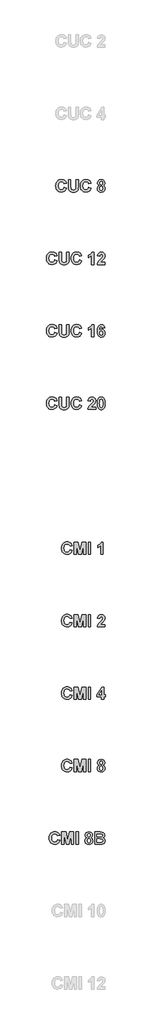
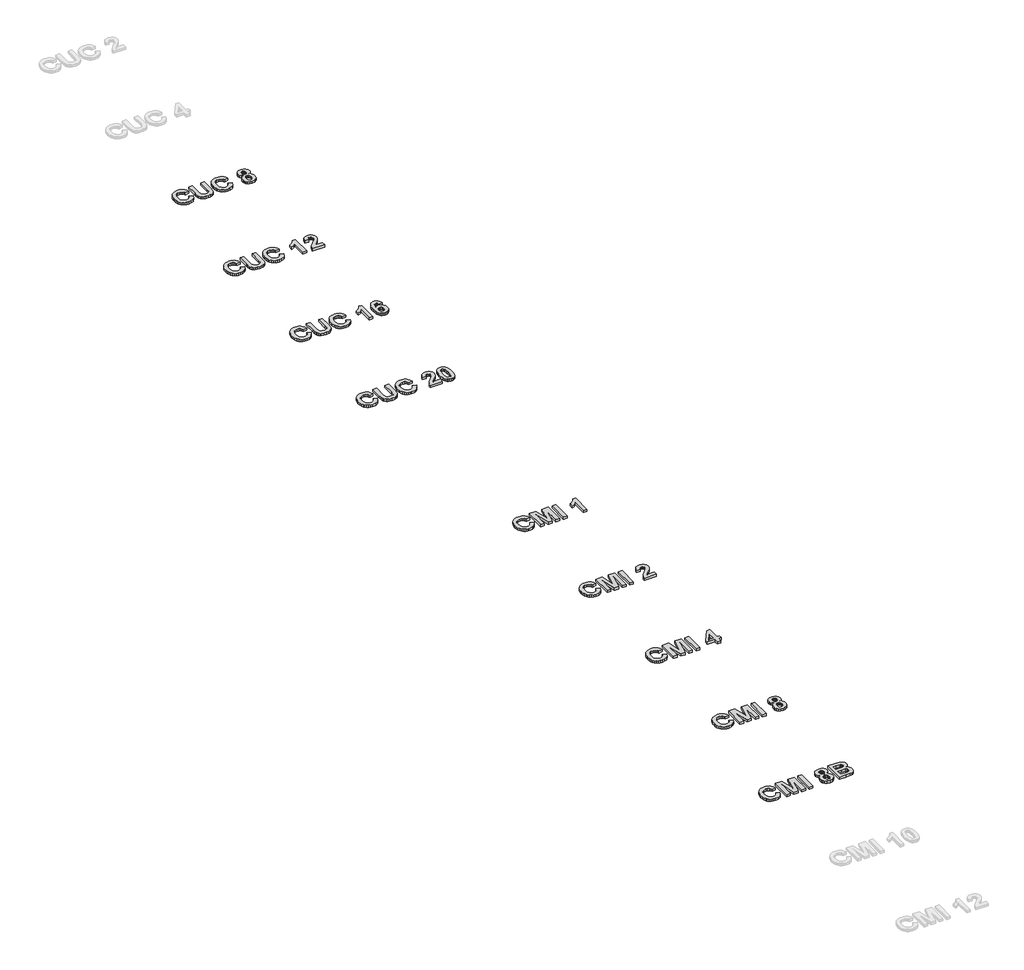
# One storey, part 2 of 9: 9 proxies.
"""IFC4 building model written with IfcOpenShell, lengths in millimetres."""

from ifc_helpers import new_model, si_unit, origin, origin_with_axes, place, context, project, spatial, polyline, outline, extrude, element, save

model = new_model("IFC4")

# Units and contexts
model_context = context("Model", 3, world=origin())
ifc_project = project(units=[si_unit("LENGTHUNIT", "METRE", prefix="MILLI")], contexts=[model_context])

# Site, building, storey
site = spatial("IfcSite", under=ifc_project)
building = spatial("IfcBuilding", under=site)
storey = spatial("IfcBuildingStorey", under=building, Name="Этаж 01", Elevation=0.0)

# Proxies
placement = place(None, origin())
element("IfcBuildingElementProxy", 1, Name="Wellmix_Надпись1", ObjectType="Wellmix_Надпись1", at=placement, inside=storey, context=model_context, shape_type="SweptSolid", body=[
    extrude(outline(polyline([(24002.2057513, -66009.0718122), (24050.7895322, -66025.2664059), (24035.4647654, -66061.0479177), (24024.9438148, -66074.9829386), (24012.5171527, -66086.2808027), (23982.1522896, -66101.2497313), (23944.5757715, -66106.2393741), (23920.2482972, -66104.1082985), (23898.1902801, -66097.7150714), (23878.4017203, -66087.059693), (23860.8826176, -66072.1421633), (23846.5462903, -66053.5278696), (23836.3060566, -66031.7821994), (23830.1619163, -66006.9051527), (23828.1138695, -65978.8967295), (23830.1797082, -65949.3621557), (23836.3772242, -65923.3227041), (23846.7064175, -65900.7783747), (23861.1672882, -65881.7291676), (23878.9967609, -65866.5902274), (23899.4317602, -65855.7766987), (23922.4722862, -65849.2885815), (23948.1183389, -65847.1258757), (23970.5440555, -65848.9090207), (23990.7556675, -65854.2584556), (24008.7531749, -65863.1741803), (24024.5365777, -65875.656195), (24039.8613445, -65896.1682926), (24050.7895322, -65924.0501956), (24002.2057513, -65932.1474924), (23994.7647783, -65915.34402), (23982.0573994, -65902.5101208), (23965.0641466, -65894.3732864), (23944.7655519, -65891.6610083), (23917.3185624, -65896.587391), (23895.5807997, -65911.3665392), (23887.3194219, -65922.7434785), (23881.4184378, -65937.1687653), (23876.6976505, -65975.1643818), (23881.2761025, -66015.2396751), (23886.9991675, -66030.2244187), (23895.0114585, -66041.8405603), (23916.0849898, -66056.7383213), (23942.6779676, -66061.7042416), (23962.7551518, -66058.5333275), (23979.8432948, -66049.0205853), (23993.2307201, -66032.6915638), (24002.2057513, -66009.0718122)])), origin_with_axes(), (0.0, 0.0, 1.0), 30.0),
    extrude(outline(polyline([(24091.2760164, -65851.1745242), (24139.8597973, -65851.1745242), (24139.8597973, -65988.7653101), (24141.9473816, -66031.2761184), (24148.0361693, -66045.31196), (24159.0908773, -66056.2955004), (24175.1115056, -66063.3885426), (24196.0980542, -66065.75289), (24217.0608802, -66063.5229704), (24232.124699, -66056.8332115), (24241.8272217, -66046.8934633), (24246.7061593, -66034.9135759), (24249.1733044, -65991.7385362), (24249.1733044, -65851.1745242), (24297.7570854, -65851.1745242), (24297.7570854, -65984.9697022), (24293.5186566, -66049.8113369), (24287.4931291, -66067.2632257), (24277.8934041, -66081.7893333), (24264.585054, -66093.5161802), (24247.4336508, -66102.5702865), (24225.4428476, -66108.3585885), (24197.6162973, -66110.2880226), (24165.0215146, -66108.1846232), (24141.3780405, -66101.8744251), (24124.2187298, -66092.195625), (24111.0764375, -66079.9864196), (24101.8404583, -66066.1798959), (24096.400087, -66051.7091408), (24092.557034, -66024.6021745), (24091.2760164, -65987.0572865), (24091.2760164, -65851.1745242)])), origin_with_axes(), (0.0, 0.0, 1.0), 30.0),
    extrude(outline(polyline([(24512.3354513, -66009.0718122), (24560.9192322, -66025.2664059), (24545.5944654, -66061.0479177), (24535.0735148, -66074.9829386), (24522.6468527, -66086.2808027), (24492.2819896, -66101.2497313), (24454.7054715, -66106.2393741), (24430.3779972, -66104.1082985), (24408.3199801, -66097.7150714), (24388.5314203, -66087.059693), (24371.0123176, -66072.1421633), (24356.6759903, -66053.5278696), (24346.4357565, -66031.7821994), (24340.2916163, -66006.9051527), (24338.2435695, -65978.8967295), (24340.3094082, -65949.3621557), (24346.5069242, -65923.3227041), (24356.8361175, -65900.7783747), (24371.2969882, -65881.7291676), (24389.1264609, -65866.5902274), (24409.5614602, -65855.7766987), (24432.6019862, -65849.2885815), (24458.2480389, -65847.1258757), (24480.6737555, -65848.9090207), (24500.8853675, -65854.2584556), (24518.8828749, -65863.1741803), (24534.6662777, -65875.656195), (24549.9910445, -65896.1682926), (24560.9192322, -65924.0501956), (24512.3354513, -65932.1474924), (24504.8944783, -65915.34402), (24492.1870994, -65902.5101208), (24475.1938466, -65894.3732864), (24454.8952519, -65891.6610083), (24427.4482624, -65896.587391), (24405.7104997, -65911.3665392), (24397.4491219, -65922.7434785), (24391.5481378, -65937.1687653), (24386.8273505, -65975.1643818), (24391.4058025, -66015.2396751), (24397.1288675, -66030.2244187), (24405.1411585, -66041.8405603), (24426.2146898, -66056.7383213), (24452.8076676, -66061.7042416), (24472.8848518, -66058.5333275), (24489.9729948, -66049.0205853), (24503.3604201, -66032.6915638), (24512.3354513, -66009.0718122)])), origin_with_axes(), (0.0, 0.0, 1.0), 30.0),
    extrude(outline(polyline([(24733.11331, -65969.4077098), (24715.6376987, -65959.9345051), (24703.6973489, -65947.4564442), (24696.8178096, -65932.7959088), (24694.5246298, -65916.7752805), (24699.5300877, -65890.783274), (24714.5464614, -65869.7413727), (24738.7829993, -65855.8162363), (24771.4489497, -65851.1745242), (24803.9172121, -65855.8162363), (24828.1932876, -65869.7413727), (24843.328274, -65890.783274), (24848.3732695, -65916.7752805), (24845.8191417, -65933.5154927), (24838.1567583, -65948.310456), (24825.8605702, -65960.4959388), (24809.4050285, -65969.4077098), (24827.9481546, -65979.8140015), (24841.4462851, -65994.0791611), (24849.6780097, -66011.5231423), (24852.4219179, -66031.4658988), (24846.9815466, -66063.2224848), (24840.1810825, -66076.6336326), (24830.6604327, -66088.4000171), (24818.882187, -66097.9760195), (24805.308935, -66104.8160212), (24772.7774124, -66110.2880226), (24742.0013585, -66105.7649232), (24716.8554562, -66092.195625), (24705.314436, -66080.5122694), (24697.0708501, -66066.8441273), (24692.1246986, -66051.1911985), (24690.4759814, -66033.5534831), (24693.0459242, -66013.8874898), (24700.7557528, -65995.8820748), (24713.9850278, -65980.6759207), (24733.11331, -65969.4077098)]), holes=[polyline([(24743.1084108, -65919.7485066), (24745.0299373, -65933.4364176), (24750.7945167, -65943.7557265), (24759.7537329, -65950.2319825), (24771.2591693, -65952.3907345), (24782.9306635, -65950.2082599), (24792.0084924, -65943.6608363), (24797.8442395, -65933.2703597), (24799.7894885, -65919.5587262), (24797.8679621, -65906.5113241), (24792.1033826, -65896.342258), (24783.1757965, -65889.7948344), (24771.7652503, -65887.6123599), (24759.9988659, -65889.8106494), (24750.8894069, -65896.4055181), (24745.0536598, -65906.6378444), (24743.1084108, -65919.7485066)]), polyline([(24739.0597624, -66029.4415746), (24741.4162023, -66048.0795908), (24748.4855219, -66062.1154325), (24759.081594, -66070.9164982), (24772.0182908, -66073.8501868), (24784.6149645, -66071.0272035), (24794.8235682, -66062.5582534), (24801.5844948, -66048.7754522), (24803.838137, -66030.0109158), (24801.5449572, -66013.2390734), (24794.6654179, -66000.1205036), (24784.2591263, -65991.6515535), (24771.3856895, -65988.8285702), (24757.1442524, -65992.0311143), (24747.062169, -66001.6387468), (24741.060364, -66014.9945421), (24739.0597624, -66029.4415746)])]), origin_with_axes(), (0.0, 0.0, 1.0), 30.0),
])
element("IfcBuildingElementProxy", 2, Name="Wellmix_Надпись1", ObjectType="Wellmix_Надпись1", at=placement, inside=storey, context=model_context, shape_type="SweptSolid", body=[
    extrude(outline(polyline([(23807.8706275, -67509.0718122), (23856.4544084, -67525.2664059), (23841.1296416, -67561.0479177), (23830.608691, -67574.9829386), (23818.1820289, -67586.2808027), (23787.8171658, -67601.2497313), (23750.2406477, -67606.2393741), (23725.9131734, -67604.1082985), (23703.8551563, -67597.7150714), (23684.0665965, -67587.059693), (23666.5474938, -67572.1421633), (23652.2111665, -67553.5278696), (23641.9709328, -67531.7821994), (23635.8267925, -67506.9051527), (23633.7787457, -67478.8967295), (23635.8445844, -67449.3621557), (23642.0421004, -67423.3227041), (23652.3712937, -67400.7783747), (23666.8321644, -67381.7291676), (23684.6616371, -67366.5902274), (23705.0966364, -67355.7766987), (23728.1371624, -67349.2885815), (23753.7832151, -67347.1258757), (23776.2089317, -67348.9090207), (23796.4205437, -67354.2584556), (23814.4180511, -67363.1741803), (23830.2014539, -67375.656195), (23845.5262207, -67396.1682926), (23856.4544084, -67424.0501956), (23807.8706275, -67432.1474924), (23800.4296545, -67415.34402), (23787.7222756, -67402.5101208), (23770.7290228, -67394.3732864), (23750.4304281, -67391.6610083), (23722.9834386, -67396.587391), (23701.2456759, -67411.3665392), (23692.9842981, -67422.7434785), (23687.083314, -67437.1687653), (23682.3625267, -67475.1643818), (23686.9409787, -67515.2396751), (23692.6640437, -67530.2244187), (23700.6763347, -67541.8405603), (23721.749866, -67556.7383213), (23748.3428438, -67561.7042416), (23768.420028, -67558.5333275), (23785.508171, -67549.0205853), (23798.8955963, -67532.6915638), (23807.8706275, -67509.0718122)])), origin_with_axes(), (0.0, 0.0, 1.0), 30.0),
    extrude(outline(polyline([(23896.9408926, -67351.1745242), (23945.5246735, -67351.1745242), (23945.5246735, -67488.7653101), (23947.6122578, -67531.2761184), (23953.7010455, -67545.31196), (23964.7557535, -67556.2955004), (23980.7763817, -67563.3885426), (24001.7629304, -67565.75289), (24022.7257564, -67563.5229704), (24037.7895752, -67556.8332115), (24047.4920979, -67546.8934633), (24052.3710355, -67534.9135759), (24054.8381806, -67491.7385362), (24054.8381806, -67351.1745242), (24103.4219616, -67351.1745242), (24103.4219616, -67484.9697022), (24099.1835328, -67549.8113369), (24093.1580053, -67567.2632257), (24083.5582803, -67581.7893333), (24070.2499302, -67593.5161802), (24053.098527, -67602.5702865), (24031.1077238, -67608.3585885), (24003.2811735, -67610.2880226), (23970.6863908, -67608.1846232), (23947.0429167, -67601.8744251), (23929.883606, -67592.195625), (23916.7413137, -67579.9864196), (23907.5053345, -67566.1798959), (23902.0649632, -67551.7091408), (23898.2219102, -67524.6021745), (23896.9408926, -67487.0572865), (23896.9408926, -67351.1745242)])), origin_with_axes(), (0.0, 0.0, 1.0), 30.0),
    extrude(outline(polyline([(24318.0003275, -67509.0718122), (24366.5841084, -67525.2664059), (24351.2593416, -67561.0479177), (24340.7383909, -67574.9829386), (24328.3117289, -67586.2808027), (24297.9468658, -67601.2497313), (24260.3703477, -67606.2393741), (24236.0428734, -67604.1082985), (24213.9848563, -67597.7150714), (24194.1962965, -67587.059693), (24176.6771938, -67572.1421633), (24162.3408665, -67553.5278696), (24152.1006327, -67531.7821994), (24145.9564925, -67506.9051527), (24143.9084457, -67478.8967295), (24145.9742844, -67449.3621557), (24152.1718004, -67423.3227041), (24162.5009937, -67400.7783747), (24176.9618644, -67381.7291676), (24194.7913371, -67366.5902274), (24215.2263364, -67355.7766987), (24238.2668624, -67349.2885815), (24263.9129151, -67347.1258757), (24286.3386317, -67348.9090207), (24306.5502437, -67354.2584556), (24324.5477511, -67363.1741803), (24340.3311539, -67375.656195), (24355.6559207, -67396.1682926), (24366.5841084, -67424.0501956), (24318.0003275, -67432.1474924), (24310.5593545, -67415.34402), (24297.8519756, -67402.5101208), (24280.8587228, -67394.3732864), (24260.5601281, -67391.6610083), (24233.1131386, -67396.587391), (24211.3753759, -67411.3665392), (24203.1139981, -67422.7434785), (24197.213014, -67437.1687653), (24192.4922267, -67475.1643818), (24197.0706787, -67515.2396751), (24202.7937437, -67530.2244187), (24210.8060347, -67541.8405603), (24231.879566, -67556.7383213), (24258.4725438, -67561.7042416), (24278.549728, -67558.5333275), (24295.637871, -67549.0205853), (24309.0252963, -67532.6915638), (24318.0003275, -67509.0718122)])), origin_with_axes(), (0.0, 0.0, 1.0), 30.0),
    extrude(outline(polyline([(24617.60031, -67606.2393741), (24569.016529, -67606.2393741), (24569.016529, -67423.9236753), (24540.9606607, -67447.8043749), (24508.2868028, -67464.5366797), (24508.2868028, -67415.9528988), (24527.7551083, -67406.8671624), (24548.8365471, -67392.1354593), (24567.2926904, -67373.1178823), (24578.8851095, -67351.1745242), (24617.60031, -67351.1745242), (24617.60031, -67606.2393741)])), origin_with_axes(), (0.0, 0.0, 1.0), 30.0),
    extrude(outline(polyline([(24852.4219179, -67557.6555932), (24852.4219179, -67606.2393741), (24690.4759814, -67606.2393741), (24695.6474972, -67581.7339807), (24705.9747136, -67558.5728651), (24725.1583485, -67532.3910782), (24756.8991194, -67498.823671), (24794.4756375, -67458.0841463), (24801.4975121, -67443.3761657), (24803.838137, -67428.8579656), (24801.8691654, -67414.7114187), (24795.9622506, -67404.2814045), (24786.5918436, -67397.8525936), (24774.2323954, -67395.7096567), (24761.9599299, -67397.8209636), (24752.4709102, -67404.1548842), (24746.0816369, -67415.3756501), (24743.1084108, -67432.1474924), (24694.5246298, -67427.7192832), (24703.1280077, -67392.5703727), (24710.7508535, -67379.3312133), (24720.587804, -67368.9822512), (24745.2118101, -67355.6264559), (24775.3078177, -67351.1745242), (24807.4439644, -67356.164167), (24831.8623752, -67371.1330956), (24847.2820322, -67393.5192746), (24852.4219179, -67420.7606687), (24846.7917662, -67452.8968155), (24828.9524091, -67484.8431819), (24798.7456964, -67516.7262881), (24771.0061287, -67544.3709656), (24761.8966698, -67557.6555932), (24852.4219179, -67557.6555932)])), origin_with_axes(), (0.0, 0.0, 1.0), 30.0),
])
element("IfcBuildingElementProxy", 3, Name="Wellmix_Надпись1", ObjectType="Wellmix_Надпись1", at=placement, inside=storey, context=model_context, shape_type="SweptSolid", body=[
    extrude(outline(polyline([(23807.8706275, -69009.0718122), (23856.4544084, -69025.2664059), (23841.1296416, -69061.0479177), (23830.608691, -69074.9829386), (23818.1820289, -69086.2808027), (23787.8171658, -69101.2497313), (23750.2406477, -69106.2393741), (23725.9131734, -69104.1082985), (23703.8551563, -69097.7150714), (23684.0665965, -69087.059693), (23666.5474938, -69072.1421633), (23652.2111665, -69053.5278696), (23641.9709328, -69031.7821994), (23635.8267925, -69006.9051527), (23633.7787457, -68978.8967295), (23635.8445844, -68949.3621557), (23642.0421004, -68923.3227041), (23652.3712937, -68900.7783747), (23666.8321644, -68881.7291676), (23684.6616371, -68866.5902274), (23705.0966364, -68855.7766987), (23728.1371624, -68849.2885815), (23753.7832151, -68847.1258757), (23776.2089317, -68848.9090207), (23796.4205437, -68854.2584556), (23814.4180511, -68863.1741803), (23830.2014539, -68875.656195), (23845.5262207, -68896.1682926), (23856.4544084, -68924.0501956), (23807.8706275, -68932.1474924), (23800.4296545, -68915.34402), (23787.7222756, -68902.5101208), (23770.7290228, -68894.3732864), (23750.4304281, -68891.6610083), (23722.9834386, -68896.587391), (23701.2456759, -68911.3665392), (23692.9842981, -68922.7434785), (23687.083314, -68937.1687653), (23682.3625267, -68975.1643818), (23686.9409787, -69015.2396751), (23692.6640437, -69030.2244187), (23700.6763347, -69041.8405603), (23721.749866, -69056.7383213), (23748.3428438, -69061.7042416), (23768.420028, -69058.5333275), (23785.508171, -69049.0205853), (23798.8955963, -69032.6915638), (23807.8706275, -69009.0718122)])), origin_with_axes(), (0.0, 0.0, 1.0), 30.0),
    extrude(outline(polyline([(23896.9408926, -68851.1745242), (23945.5246735, -68851.1745242), (23945.5246735, -68988.7653101), (23947.6122578, -69031.2761184), (23953.7010455, -69045.31196), (23964.7557535, -69056.2955004), (23980.7763817, -69063.3885426), (24001.7629304, -69065.75289), (24022.7257564, -69063.5229704), (24037.7895752, -69056.8332115), (24047.4920979, -69046.8934633), (24052.3710355, -69034.9135759), (24054.8381806, -68991.7385362), (24054.8381806, -68851.1745242), (24103.4219616, -68851.1745242), (24103.4219616, -68984.9697022), (24099.1835328, -69049.8113369), (24093.1580053, -69067.2632257), (24083.5582803, -69081.7893333), (24070.2499302, -69093.5161802), (24053.098527, -69102.5702865), (24031.1077238, -69108.3585885), (24003.2811735, -69110.2880226), (23970.6863908, -69108.1846232), (23947.0429167, -69101.8744251), (23929.883606, -69092.195625), (23916.7413137, -69079.9864196), (23907.5053345, -69066.1798959), (23902.0649632, -69051.7091408), (23898.2219102, -69024.6021745), (23896.9408926, -68987.0572865), (23896.9408926, -68851.1745242)])), origin_with_axes(), (0.0, 0.0, 1.0), 30.0),
    extrude(outline(polyline([(24318.0003275, -69009.0718122), (24366.5841084, -69025.2664059), (24351.2593416, -69061.0479177), (24340.7383909, -69074.9829386), (24328.3117289, -69086.2808027), (24297.9468658, -69101.2497313), (24260.3703477, -69106.2393741), (24236.0428734, -69104.1082985), (24213.9848563, -69097.7150714), (24194.1962965, -69087.059693), (24176.6771938, -69072.1421633), (24162.3408665, -69053.5278696), (24152.1006327, -69031.7821994), (24145.9564925, -69006.9051527), (24143.9084457, -68978.8967295), (24145.9742844, -68949.3621557), (24152.1718004, -68923.3227041), (24162.5009937, -68900.7783747), (24176.9618644, -68881.7291676), (24194.7913371, -68866.5902274), (24215.2263364, -68855.7766987), (24238.2668624, -68849.2885815), (24263.9129151, -68847.1258757), (24286.3386317, -68848.9090207), (24306.5502437, -68854.2584556), (24324.5477511, -68863.1741803), (24340.3311539, -68875.656195), (24355.6559207, -68896.1682926), (24366.5841084, -68924.0501956), (24318.0003275, -68932.1474924), (24310.5593545, -68915.34402), (24297.8519756, -68902.5101208), (24280.8587228, -68894.3732864), (24260.5601281, -68891.6610083), (24233.1131386, -68896.587391), (24211.3753759, -68911.3665392), (24203.1139981, -68922.7434785), (24197.213014, -68937.1687653), (24192.4922267, -68975.1643818), (24197.0706787, -69015.2396751), (24202.7937437, -69030.2244187), (24210.8060347, -69041.8405603), (24231.879566, -69056.7383213), (24258.4725438, -69061.7042416), (24278.549728, -69058.5333275), (24295.637871, -69049.0205853), (24309.0252963, -69032.6915638), (24318.0003275, -69009.0718122)])), origin_with_axes(), (0.0, 0.0, 1.0), 30.0),
    extrude(outline(polyline([(24617.60031, -69106.2393741), (24569.016529, -69106.2393741), (24569.016529, -68923.9236753), (24540.9606607, -68947.8043749), (24508.2868028, -68964.5366797), (24508.2868028, -68915.9528988), (24527.7551083, -68906.8671624), (24548.8365471, -68892.1354593), (24567.2926904, -68873.1178823), (24578.8851095, -68851.1745242), (24617.60031, -68851.1745242), (24617.60031, -69106.2393741)])), origin_with_axes(), (0.0, 0.0, 1.0), 30.0),
    extrude(outline(polyline([(24848.3732695, -68918.8628648), (24799.7894885, -68924.0501956), (24796.8162624, -68911.4535219), (24791.1861107, -68902.6366411), (24783.183704, -68897.4414028), (24773.0937131, -68895.7096567), (24759.4927848, -68899.0703512), (24748.1692213, -68909.1524346), (24739.866329, -68929.9887404), (24735.3274146, -68965.6121019), (24755.3492462, -68949.6231037), (24779.7360269, -68944.2934376), (24807.5625772, -68949.9868495), (24831.0716235, -68967.067085), (24847.0843443, -68993.1460742), (24852.4219179, -69025.8357471), (24846.9657316, -69060.2729811), (24840.1454986, -69074.6626842), (24830.5971726, -69087.1664445), (24818.9059095, -69097.2821349), (24805.6568657, -69104.507628), (24774.485436, -69110.2880226), (24756.954472, -69108.4218487), (24741.0524565, -69102.823327), (24726.7793893, -69093.4924577), (24714.1352706, -69080.4292405), (24703.7843316, -69063.1157333), (24696.3908037, -69041.0339937), (24691.954687, -69014.1840216), (24690.4759814, -68982.5658172), (24692.019924, -68950.1133697), (24696.6517517, -68922.5319524), (24704.3714647, -68899.8215652), (24715.1790627, -68881.9822082), (24728.4538059, -68868.5038464), (24743.5749542, -68858.8764452), (24760.5425076, -68853.1000044), (24779.3564661, -68851.1745242), (24804.6763337, -68855.5078432), (24825.2200614, -68868.5078002), (24840.0861923, -68889.7632043), (24848.3732695, -68918.8628648)]), holes=[polyline([(24739.0597624, -69024.7603248), (24741.6850578, -69042.1805835), (24749.5609442, -69055.0935579), (24760.8054325, -69063.088057), (24773.536534, -69065.75289), (24785.4294387, -69063.5704155), (24795.1714989, -69057.0229919), (24801.6714775, -69045.4938329), (24803.838137, -69028.3661523), (24801.5054196, -69010.6137779), (24794.5072676, -68998.34922), (24784.0139933, -68991.2087326), (24771.1959091, -68988.8285702), (24758.7573858, -68991.1059349), (24748.3906317, -68997.9380291), (24741.3924797, -69009.1983325), (24739.0597624, -69024.7603248)])]), origin_with_axes(), (0.0, 0.0, 1.0), 30.0),
])
element("IfcBuildingElementProxy", 4, Name="Wellmix_Надпись1", ObjectType="Wellmix_Надпись1", at=placement, inside=storey, context=model_context, shape_type="SweptSolid", body=[
    extrude(outline(polyline([(23807.8706275, -70509.0718122), (23856.4544084, -70525.2664059), (23841.1296416, -70561.0479177), (23830.608691, -70574.9829386), (23818.1820289, -70586.2808027), (23787.8171658, -70601.2497313), (23750.2406477, -70606.2393741), (23725.9131734, -70604.1082985), (23703.8551563, -70597.7150714), (23684.0665965, -70587.059693), (23666.5474938, -70572.1421633), (23652.2111665, -70553.5278696), (23641.9709328, -70531.7821994), (23635.8267925, -70506.9051527), (23633.7787457, -70478.8967295), (23635.8445844, -70449.3621557), (23642.0421004, -70423.3227041), (23652.3712937, -70400.7783747), (23666.8321644, -70381.7291676), (23684.6616371, -70366.5902274), (23705.0966364, -70355.7766987), (23728.1371624, -70349.2885815), (23753.7832151, -70347.1258757), (23776.2089317, -70348.9090207), (23796.4205437, -70354.2584556), (23814.4180511, -70363.1741803), (23830.2014539, -70375.656195), (23845.5262207, -70396.1682926), (23856.4544084, -70424.0501956), (23807.8706275, -70432.1474924), (23800.4296545, -70415.34402), (23787.7222756, -70402.5101208), (23770.7290228, -70394.3732864), (23750.4304281, -70391.6610083), (23722.9834386, -70396.587391), (23701.2456759, -70411.3665392), (23692.9842981, -70422.7434785), (23687.083314, -70437.1687653), (23682.3625267, -70475.1643818), (23686.9409787, -70515.2396751), (23692.6640437, -70530.2244187), (23700.6763347, -70541.8405603), (23721.749866, -70556.7383213), (23748.3428438, -70561.7042416), (23768.420028, -70558.5333275), (23785.508171, -70549.0205853), (23798.8955963, -70532.6915638), (23807.8706275, -70509.0718122)])), origin_with_axes(), (0.0, 0.0, 1.0), 30.0),
    extrude(outline(polyline([(23896.9408926, -70351.1745242), (23945.5246735, -70351.1745242), (23945.5246735, -70488.7653101), (23947.6122578, -70531.2761184), (23953.7010455, -70545.31196), (23964.7557535, -70556.2955004), (23980.7763817, -70563.3885426), (24001.7629304, -70565.75289), (24022.7257564, -70563.5229704), (24037.7895752, -70556.8332115), (24047.4920979, -70546.8934633), (24052.3710355, -70534.9135759), (24054.8381806, -70491.7385362), (24054.8381806, -70351.1745242), (24103.4219616, -70351.1745242), (24103.4219616, -70484.9697022), (24099.1835328, -70549.8113369), (24093.1580053, -70567.2632257), (24083.5582803, -70581.7893333), (24070.2499302, -70593.5161802), (24053.098527, -70602.5702865), (24031.1077238, -70608.3585885), (24003.2811735, -70610.2880226), (23970.6863908, -70608.1846232), (23947.0429167, -70601.8744251), (23929.883606, -70592.195625), (23916.7413137, -70579.9864196), (23907.5053345, -70566.1798959), (23902.0649632, -70551.7091408), (23898.2219102, -70524.6021745), (23896.9408926, -70487.0572865), (23896.9408926, -70351.1745242)])), origin_with_axes(), (0.0, 0.0, 1.0), 30.0),
    extrude(outline(polyline([(24318.0003275, -70509.0718122), (24366.5841084, -70525.2664059), (24351.2593416, -70561.0479177), (24340.7383909, -70574.9829386), (24328.3117289, -70586.2808027), (24297.9468658, -70601.2497313), (24260.3703477, -70606.2393741), (24236.0428734, -70604.1082985), (24213.9848563, -70597.7150714), (24194.1962965, -70587.059693), (24176.6771938, -70572.1421633), (24162.3408665, -70553.5278696), (24152.1006327, -70531.7821994), (24145.9564925, -70506.9051527), (24143.9084457, -70478.8967295), (24145.9742844, -70449.3621557), (24152.1718004, -70423.3227041), (24162.5009937, -70400.7783747), (24176.9618644, -70381.7291676), (24194.7913371, -70366.5902274), (24215.2263364, -70355.7766987), (24238.2668624, -70349.2885815), (24263.9129151, -70347.1258757), (24286.3386317, -70348.9090207), (24306.5502437, -70354.2584556), (24324.5477511, -70363.1741803), (24340.3311539, -70375.656195), (24355.6559207, -70396.1682926), (24366.5841084, -70424.0501956), (24318.0003275, -70432.1474924), (24310.5593545, -70415.34402), (24297.8519756, -70402.5101208), (24280.8587228, -70394.3732864), (24260.5601281, -70391.6610083), (24233.1131386, -70396.587391), (24211.3753759, -70411.3665392), (24203.1139981, -70422.7434785), (24197.213014, -70437.1687653), (24192.4922267, -70475.1643818), (24197.0706787, -70515.2396751), (24202.7937437, -70530.2244187), (24210.8060347, -70541.8405603), (24231.879566, -70556.7383213), (24258.4725438, -70561.7042416), (24278.549728, -70558.5333275), (24295.637871, -70549.0205853), (24309.0252963, -70532.6915638), (24318.0003275, -70509.0718122)])), origin_with_axes(), (0.0, 0.0, 1.0), 30.0),
    extrude(outline(polyline([(24658.0867941, -70557.6555932), (24658.0867941, -70606.2393741), (24496.1408576, -70606.2393741), (24501.3123734, -70581.7339807), (24511.6395898, -70558.5728651), (24530.8232247, -70532.3910782), (24562.5639956, -70498.823671), (24600.1405137, -70458.0841463), (24607.1623883, -70443.3761657), (24609.5030132, -70428.8579656), (24607.5340416, -70414.7114187), (24601.6271268, -70404.2814045), (24592.2567198, -70397.8525936), (24579.8972716, -70395.7096567), (24567.6248061, -70397.8209636), (24558.1357864, -70404.1548842), (24551.7465131, -70415.3756501), (24548.773287, -70432.1474924), (24500.189506, -70427.7192832), (24508.7928839, -70392.5703727), (24516.4157297, -70379.3312133), (24526.2526802, -70368.9822512), (24550.8766863, -70355.6264559), (24580.9726939, -70351.1745242), (24613.1088406, -70356.164167), (24637.5272514, -70371.1330956), (24652.9469084, -70393.5192746), (24658.0867941, -70420.7606687), (24652.4566424, -70452.8968155), (24634.6172853, -70484.8431819), (24604.4105726, -70516.7262881), (24576.6710049, -70544.3709656), (24567.561546, -70557.6555932), (24658.0867941, -70557.6555932)])), origin_with_axes(), (0.0, 0.0, 1.0), 30.0),
    extrude(outline(polyline([(24771.4489497, -70351.1745242), (24788.580584, -70352.8192876), (24803.7274317, -70357.7535778), (24816.8894928, -70365.9773949), (24828.0667673, -70377.4907388), (24838.7221457, -70395.6187203), (24846.3331303, -70418.8786798), (24850.899721, -70447.2706176), (24852.4219179, -70480.7945335), (24850.8918135, -70514.2868193), (24846.3015002, -70542.7103871), (24838.650978, -70566.0652369), (24827.940247, -70584.3513687), (24816.8183252, -70595.6986547), (24803.6958017, -70603.8038591), (24788.5726765, -70608.6669817), (24771.4489497, -70610.2880226), (24754.1413731, -70608.5088314), (24738.5932189, -70603.1712578), (24724.8044871, -70594.2753018), (24712.7751777, -70581.8209634), (24703.0192793, -70564.8000343), (24696.0507805, -70542.2043061), (24691.8696812, -70514.0337788), (24690.4759814, -70480.2884524), (24692.0060858, -70446.9622244), (24696.5963991, -70418.6572694), (24704.2469213, -70395.3735872), (24714.9576523, -70377.111178), (24726.0795741, -70365.763892), (24739.2020977, -70357.6586876), (24754.3252228, -70352.795565), (24771.4489497, -70351.1745242)]), holes=[polyline([(24771.4489497, -70395.7096567), (24755.254356, -70401.0551378), (24748.9283429, -70408.5277408), (24744.2470931, -70420.2545877), (24740.3565951, -70444.4041429), (24739.0597624, -70480.7945335), (24740.2142598, -70516.7025656), (24743.677752, -70539.278525), (24748.9046203, -70552.5315225), (24755.3492462, -70560.470669), (24771.4489497, -70565.75289), (24787.6435433, -70560.4074089), (24793.9695565, -70552.9348059), (24798.6508062, -70541.207959), (24802.5413043, -70517.1849241), (24803.838137, -70480.7945335), (24802.6836396, -70444.926039), (24799.2201474, -70422.342172), (24793.993279, -70409.0496369), (24787.5486531, -70401.0551378), (24771.4489497, -70395.7096567)])]), origin_with_axes(), (0.0, 0.0, 1.0), 30.0),
])
element("IfcBuildingElementProxy", 5, Name="Wellmix_Надпись1", ObjectType="Wellmix_Надпись1", at=placement, inside=storey, context=model_context, shape_type="SweptSolid", body=[
    extrude(outline(polyline([(24119.6165552, -73509.0718122), (24168.2003362, -73525.2664059), (24152.8755693, -73561.0479177), (24142.3546187, -73574.9829386), (24129.9279567, -73586.2808027), (24099.5630936, -73601.2497313), (24061.9865755, -73606.2393741), (24037.6591012, -73604.1082985), (24015.6010841, -73597.7150714), (23995.8125242, -73587.059693), (23978.2934216, -73572.1421633), (23963.9570943, -73553.5278696), (23953.7168605, -73531.7821994), (23947.5727203, -73506.9051527), (23945.5246735, -73478.8967295), (23947.5905122, -73449.3621557), (23953.7880282, -73423.3227041), (23964.1172215, -73400.7783747), (23978.5780922, -73381.7291676), (23996.4075649, -73366.5902274), (24016.8425642, -73355.7766987), (24039.8830902, -73349.2885815), (24065.5291429, -73347.1258757), (24087.9548595, -73348.9090207), (24108.1664714, -73354.2584556), (24126.1639788, -73363.1741803), (24141.9473816, -73375.656195), (24157.2721485, -73396.1682926), (24168.2003362, -73424.0501956), (24119.6165552, -73432.1474924), (24112.1755823, -73415.34402), (24099.4682034, -73402.5101208), (24082.4749506, -73394.3732864), (24062.1763559, -73391.6610083), (24034.7293664, -73396.587391), (24012.9916037, -73411.3665392), (24004.7302259, -73422.7434785), (23998.8292418, -73437.1687653), (23994.1084545, -73475.1643818), (23998.6869065, -73515.2396751), (24004.4099715, -73530.2244187), (24012.4222625, -73541.8405603), (24033.4957938, -73556.7383213), (24060.0887715, -73561.7042416), (24080.1659558, -73558.5333275), (24097.2540988, -73549.0205853), (24110.6415241, -73532.6915638), (24119.6165552, -73509.0718122)])), origin_with_axes(), (0.0, 0.0, 1.0), 30.0),
    extrude(outline(polyline([(24208.6868203, -73606.2393741), (24208.6868203, -73351.1745242), (24291.9371533, -73351.1745242), (24332.1705969, -73525.1398856), (24372.4040405, -73351.1745242), (24455.6543735, -73351.1745242), (24455.6543735, -73606.2393741), (24407.0705925, -73606.2393741), (24405.0462683, -73405.4517169), (24360.637656, -73606.2393741), (24303.7667979, -73606.2393741), (24259.2949255, -73405.4517169), (24257.2706013, -73606.2393741), (24208.6868203, -73606.2393741)])), origin_with_axes(), (0.0, 0.0, 1.0), 30.0),
    extrude(outline(polyline([(24504.2381544, -73606.2393741), (24504.2381544, -73351.1745242), (24552.8219354, -73351.1745242), (24552.8219354, -73606.2393741), (24504.2381544, -73606.2393741)])), origin_with_axes(), (0.0, 0.0, 1.0), 30.0),
    extrude(outline(polyline([(24811.9354338, -73606.2393741), (24763.3516528, -73606.2393741), (24763.3516528, -73423.9236753), (24735.2957845, -73447.8043749), (24702.6219266, -73464.5366797), (24702.6219266, -73415.9528988), (24722.0902321, -73406.8671624), (24743.1716709, -73392.1354593), (24761.6278142, -73373.1178823), (24773.2202333, -73351.1745242), (24811.9354338, -73351.1745242), (24811.9354338, -73606.2393741)])), origin_with_axes(), (0.0, 0.0, 1.0), 30.0),
])
element("IfcBuildingElementProxy", 6, Name="Wellmix_Надпись1", ObjectType="Wellmix_Надпись1", at=placement, inside=storey, context=model_context, shape_type="SweptSolid", body=[
    extrude(outline(polyline([(24119.6165552, -75009.0718122), (24168.2003362, -75025.2664059), (24152.8755693, -75061.0479177), (24142.3546187, -75074.9829386), (24129.9279567, -75086.2808027), (24099.5630936, -75101.2497313), (24061.9865755, -75106.2393741), (24037.6591012, -75104.1082985), (24015.6010841, -75097.7150714), (23995.8125242, -75087.059693), (23978.2934216, -75072.1421633), (23963.9570943, -75053.5278696), (23953.7168605, -75031.7821994), (23947.5727203, -75006.9051527), (23945.5246735, -74978.8967295), (23947.5905122, -74949.3621557), (23953.7880282, -74923.3227041), (23964.1172215, -74900.7783747), (23978.5780922, -74881.7291676), (23996.4075649, -74866.5902274), (24016.8425642, -74855.7766987), (24039.8830902, -74849.2885815), (24065.5291429, -74847.1258757), (24087.9548595, -74848.9090207), (24108.1664714, -74854.2584556), (24126.1639788, -74863.1741803), (24141.9473816, -74875.656195), (24157.2721485, -74896.1682926), (24168.2003362, -74924.0501956), (24119.6165552, -74932.1474924), (24112.1755823, -74915.34402), (24099.4682034, -74902.5101208), (24082.4749506, -74894.3732864), (24062.1763559, -74891.6610083), (24034.7293664, -74896.587391), (24012.9916037, -74911.3665392), (24004.7302259, -74922.7434785), (23998.8292418, -74937.1687653), (23994.1084545, -74975.1643818), (23998.6869065, -75015.2396751), (24004.4099715, -75030.2244187), (24012.4222625, -75041.8405603), (24033.4957938, -75056.7383213), (24060.0887715, -75061.7042416), (24080.1659558, -75058.5333275), (24097.2540988, -75049.0205853), (24110.6415241, -75032.6915638), (24119.6165552, -75009.0718122)])), origin_with_axes(), (0.0, 0.0, 1.0), 30.0),
    extrude(outline(polyline([(24208.6868203, -75106.2393741), (24208.6868203, -74851.1745242), (24291.9371533, -74851.1745242), (24332.1705969, -75025.1398856), (24372.4040405, -74851.1745242), (24455.6543735, -74851.1745242), (24455.6543735, -75106.2393741), (24407.0705925, -75106.2393741), (24405.0462683, -74905.4517169), (24360.637656, -75106.2393741), (24303.7667979, -75106.2393741), (24259.2949255, -74905.4517169), (24257.2706013, -75106.2393741), (24208.6868203, -75106.2393741)])), origin_with_axes(), (0.0, 0.0, 1.0), 30.0),
    extrude(outline(polyline([(24504.2381544, -75106.2393741), (24504.2381544, -74851.1745242), (24552.8219354, -74851.1745242), (24552.8219354, -75106.2393741), (24504.2381544, -75106.2393741)])), origin_with_axes(), (0.0, 0.0, 1.0), 30.0),
    extrude(outline(polyline([(24852.4219179, -75057.6555932), (24852.4219179, -75106.2393741), (24690.4759814, -75106.2393741), (24695.6474972, -75081.7339807), (24705.9747136, -75058.5728651), (24725.1583485, -75032.3910782), (24756.8991194, -74998.823671), (24794.4756375, -74958.0841463), (24801.4975121, -74943.3761657), (24803.838137, -74928.8579656), (24801.8691654, -74914.7114187), (24795.9622506, -74904.2814045), (24786.5918436, -74897.8525936), (24774.2323954, -74895.7096567), (24761.9599299, -74897.8209636), (24752.4709102, -74904.1548842), (24746.0816369, -74915.3756501), (24743.1084108, -74932.1474924), (24694.5246298, -74927.7192832), (24703.1280077, -74892.5703727), (24710.7508535, -74879.3312133), (24720.587804, -74868.9822512), (24745.2118101, -74855.6264559), (24775.3078177, -74851.1745242), (24807.4439644, -74856.164167), (24831.8623752, -74871.1330956), (24847.2820322, -74893.5192746), (24852.4219179, -74920.7606687), (24846.7917662, -74952.8968155), (24828.9524091, -74984.8431819), (24798.7456964, -75016.7262881), (24771.0061287, -75044.3709656), (24761.8966698, -75057.6555932), (24852.4219179, -75057.6555932)])), origin_with_axes(), (0.0, 0.0, 1.0), 30.0),
])
element("IfcBuildingElementProxy", 7, Name="Wellmix_Надпись1", ObjectType="Wellmix_Надпись1", at=placement, inside=storey, context=model_context, shape_type="SweptSolid", body=[
    extrude(outline(polyline([(24119.6165552, -76509.0718122), (24168.2003362, -76525.2664059), (24152.8755693, -76561.0479177), (24142.3546187, -76574.9829386), (24129.9279567, -76586.2808027), (24099.5630936, -76601.2497313), (24061.9865755, -76606.2393741), (24037.6591012, -76604.1082985), (24015.6010841, -76597.7150714), (23995.8125242, -76587.059693), (23978.2934216, -76572.1421633), (23963.9570943, -76553.5278696), (23953.7168605, -76531.7821994), (23947.5727203, -76506.9051527), (23945.5246735, -76478.8967295), (23947.5905122, -76449.3621557), (23953.7880282, -76423.3227041), (23964.1172215, -76400.7783747), (23978.5780922, -76381.7291676), (23996.4075649, -76366.5902274), (24016.8425642, -76355.7766987), (24039.8830902, -76349.2885815), (24065.5291429, -76347.1258757), (24087.9548595, -76348.9090207), (24108.1664714, -76354.2584556), (24126.1639788, -76363.1741803), (24141.9473816, -76375.656195), (24157.2721485, -76396.1682926), (24168.2003362, -76424.0501956), (24119.6165552, -76432.1474924), (24112.1755823, -76415.34402), (24099.4682034, -76402.5101208), (24082.4749506, -76394.3732864), (24062.1763559, -76391.6610083), (24034.7293664, -76396.587391), (24012.9916037, -76411.3665392), (24004.7302259, -76422.7434785), (23998.8292418, -76437.1687653), (23994.1084545, -76475.1643818), (23998.6869065, -76515.2396751), (24004.4099715, -76530.2244187), (24012.4222625, -76541.8405603), (24033.4957938, -76556.7383213), (24060.0887715, -76561.7042416), (24080.1659558, -76558.5333275), (24097.2540988, -76549.0205853), (24110.6415241, -76532.6915638), (24119.6165552, -76509.0718122)])), origin_with_axes(), (0.0, 0.0, 1.0), 30.0),
    extrude(outline(polyline([(24208.6868203, -76606.2393741), (24208.6868203, -76351.1745242), (24291.9371533, -76351.1745242), (24332.1705969, -76525.1398856), (24372.4040405, -76351.1745242), (24455.6543735, -76351.1745242), (24455.6543735, -76606.2393741), (24407.0705925, -76606.2393741), (24405.0462683, -76405.4517169), (24360.637656, -76606.2393741), (24303.7667979, -76606.2393741), (24259.2949255, -76405.4517169), (24257.2706013, -76606.2393741), (24208.6868203, -76606.2393741)])), origin_with_axes(), (0.0, 0.0, 1.0), 30.0),
    extrude(outline(polyline([(24504.2381544, -76606.2393741), (24504.2381544, -76351.1745242), (24552.8219354, -76351.1745242), (24552.8219354, -76606.2393741), (24504.2381544, -76606.2393741)])), origin_with_axes(), (0.0, 0.0, 1.0), 30.0),
    extrude(outline(polyline([(24779.5462465, -76606.2393741), (24779.5462465, -76553.6069448), (24682.3786846, -76553.6069448), (24682.3786846, -76513.3102411), (24785.9987799, -76355.2231726), (24828.1300274, -76355.2231726), (24828.1300274, -76513.1204607), (24860.5192147, -76513.1204607), (24860.5192147, -76553.6069448), (24828.1300274, -76553.6069448), (24828.1300274, -76606.2393741), (24779.5462465, -76606.2393741)]), holes=[polyline([(24779.5462465, -76513.1204607), (24779.5462465, -76430.2496885), (24725.2690537, -76513.1204607), (24779.5462465, -76513.1204607)])]), origin_with_axes(), (0.0, 0.0, 1.0), 30.0),
])
element("IfcBuildingElementProxy", 8, Name="Wellmix_Надпись1", ObjectType="Wellmix_Надпись1", at=placement, inside=storey, context=model_context, shape_type="SweptSolid", body=[
    extrude(outline(polyline([(24119.6165552, -78009.0718122), (24168.2003362, -78025.2664059), (24152.8755693, -78061.0479177), (24142.3546187, -78074.9829386), (24129.9279567, -78086.2808027), (24099.5630936, -78101.2497313), (24061.9865755, -78106.2393741), (24037.6591012, -78104.1082985), (24015.6010841, -78097.7150714), (23995.8125242, -78087.059693), (23978.2934216, -78072.1421633), (23963.9570943, -78053.5278696), (23953.7168605, -78031.7821994), (23947.5727203, -78006.9051527), (23945.5246735, -77978.8967295), (23947.5905122, -77949.3621557), (23953.7880282, -77923.3227041), (23964.1172215, -77900.7783747), (23978.5780922, -77881.7291676), (23996.4075649, -77866.5902274), (24016.8425642, -77855.7766987), (24039.8830902, -77849.2885815), (24065.5291429, -77847.1258757), (24087.9548595, -77848.9090207), (24108.1664714, -77854.2584556), (24126.1639788, -77863.1741803), (24141.9473816, -77875.656195), (24157.2721485, -77896.1682926), (24168.2003362, -77924.0501956), (24119.6165552, -77932.1474924), (24112.1755823, -77915.34402), (24099.4682034, -77902.5101208), (24082.4749506, -77894.3732864), (24062.1763559, -77891.6610083), (24034.7293664, -77896.587391), (24012.9916037, -77911.3665392), (24004.7302259, -77922.7434785), (23998.8292418, -77937.1687653), (23994.1084545, -77975.1643818), (23998.6869065, -78015.2396751), (24004.4099715, -78030.2244187), (24012.4222625, -78041.8405603), (24033.4957938, -78056.7383213), (24060.0887715, -78061.7042416), (24080.1659558, -78058.5333275), (24097.2540988, -78049.0205853), (24110.6415241, -78032.6915638), (24119.6165552, -78009.0718122)])), origin_with_axes(), (0.0, 0.0, 1.0), 30.0),
    extrude(outline(polyline([(24208.6868203, -78106.2393741), (24208.6868203, -77851.1745242), (24291.9371533, -77851.1745242), (24332.1705969, -78025.1398856), (24372.4040405, -77851.1745242), (24455.6543735, -77851.1745242), (24455.6543735, -78106.2393741), (24407.0705925, -78106.2393741), (24405.0462683, -77905.4517169), (24360.637656, -78106.2393741), (24303.7667979, -78106.2393741), (24259.2949255, -77905.4517169), (24257.2706013, -78106.2393741), (24208.6868203, -78106.2393741)])), origin_with_axes(), (0.0, 0.0, 1.0), 30.0),
    extrude(outline(polyline([(24504.2381544, -78106.2393741), (24504.2381544, -77851.1745242), (24552.8219354, -77851.1745242), (24552.8219354, -78106.2393741), (24504.2381544, -78106.2393741)])), origin_with_axes(), (0.0, 0.0, 1.0), 30.0),
    extrude(outline(polyline([(24733.11331, -77969.4077098), (24715.6376987, -77959.9345051), (24703.6973489, -77947.4564442), (24696.8178096, -77932.7959088), (24694.5246298, -77916.7752805), (24699.5300877, -77890.783274), (24714.5464614, -77869.7413727), (24738.7829993, -77855.8162363), (24771.4489497, -77851.1745242), (24803.9172121, -77855.8162363), (24828.1932876, -77869.7413727), (24843.328274, -77890.783274), (24848.3732695, -77916.7752805), (24845.8191417, -77933.5154927), (24838.1567583, -77948.310456), (24825.8605702, -77960.4959388), (24809.4050285, -77969.4077098), (24827.9481546, -77979.8140015), (24841.4462851, -77994.0791611), (24849.6780097, -78011.5231423), (24852.4219179, -78031.4658988), (24846.9815466, -78063.2224848), (24840.1810825, -78076.6336326), (24830.6604327, -78088.4000171), (24818.882187, -78097.9760195), (24805.308935, -78104.8160212), (24772.7774124, -78110.2880226), (24742.0013585, -78105.7649232), (24716.8554562, -78092.195625), (24705.314436, -78080.5122694), (24697.0708501, -78066.8441273), (24692.1246986, -78051.1911985), (24690.4759814, -78033.5534831), (24693.0459242, -78013.8874898), (24700.7557528, -77995.8820748), (24713.9850278, -77980.6759207), (24733.11331, -77969.4077098)]), holes=[polyline([(24743.1084108, -77919.7485066), (24745.0299373, -77933.4364176), (24750.7945167, -77943.7557265), (24759.7537329, -77950.2319825), (24771.2591693, -77952.3907345), (24782.9306635, -77950.2082599), (24792.0084924, -77943.6608363), (24797.8442395, -77933.2703597), (24799.7894885, -77919.5587262), (24797.8679621, -77906.5113241), (24792.1033826, -77896.342258), (24783.1757965, -77889.7948344), (24771.7652503, -77887.6123599), (24759.9988659, -77889.8106494), (24750.8894069, -77896.4055181), (24745.0536598, -77906.6378444), (24743.1084108, -77919.7485066)]), polyline([(24739.0597624, -78029.4415746), (24741.4162023, -78048.0795908), (24748.4855219, -78062.1154325), (24759.081594, -78070.9164982), (24772.0182908, -78073.8501868), (24784.6149645, -78071.0272035), (24794.8235682, -78062.5582534), (24801.5844948, -78048.7754522), (24803.838137, -78030.0109158), (24801.5449572, -78013.2390734), (24794.6654179, -78000.1205036), (24784.2591263, -77991.6515535), (24771.3856895, -77988.8285702), (24757.1442524, -77992.0311143), (24747.062169, -78001.6387468), (24741.060364, -78014.9945421), (24739.0597624, -78029.4415746)])]), origin_with_axes(), (0.0, 0.0, 1.0), 30.0),
])
element("IfcBuildingElementProxy", 9, Name="Wellmix_Надпись1", ObjectType="Wellmix_Надпись1", at=placement, inside=storey, context=model_context, shape_type="SweptSolid", body=[
    extrude(outline(polyline([(23864.5517053, -79509.0718122), (23913.1354862, -79525.2664059), (23897.8107194, -79561.0479177), (23887.2897687, -79574.9829386), (23874.8631067, -79586.2808027), (23844.4982436, -79601.2497313), (23806.9217255, -79606.2393741), (23782.5942512, -79604.1082985), (23760.5362341, -79597.7150714), (23740.7476743, -79587.059693), (23723.2285716, -79572.1421633), (23708.8922443, -79553.5278696), (23698.6520105, -79531.7821994), (23692.5078703, -79506.9051527), (23690.4598235, -79478.8967295), (23692.5256622, -79449.3621557), (23698.7231782, -79423.3227041), (23709.0523715, -79400.7783747), (23723.5132422, -79381.7291676), (23741.3427149, -79366.5902274), (23761.7777142, -79355.7766987), (23784.8182402, -79349.2885815), (23810.4642929, -79347.1258757), (23832.8900095, -79348.9090207), (23853.1016215, -79354.2584556), (23871.0991289, -79363.1741803), (23886.8825317, -79375.656195), (23902.2072985, -79396.1682926), (23913.1354862, -79424.0501956), (23864.5517053, -79432.1474924), (23857.1107323, -79415.34402), (23844.4033534, -79402.5101208), (23827.4101006, -79394.3732864), (23807.1115059, -79391.6610083), (23779.6645164, -79396.587391), (23757.9267537, -79411.3665392), (23749.6653759, -79422.7434785), (23743.7643918, -79437.1687653), (23739.0436045, -79475.1643818), (23743.6220565, -79515.2396751), (23749.3451215, -79530.2244187), (23757.3574125, -79541.8405603), (23778.4309438, -79556.7383213), (23805.0239216, -79561.7042416), (23825.1011058, -79558.5333275), (23842.1892488, -79549.0205853), (23855.5766741, -79532.6915638), (23864.5517053, -79509.0718122)])), origin_with_axes(), (0.0, 0.0, 1.0), 30.0),
    extrude(outline(polyline([(23953.6219703, -79606.2393741), (23953.6219703, -79351.1745242), (24036.8723033, -79351.1745242), (24077.1057469, -79525.1398856), (24117.3391905, -79351.1745242), (24200.5895235, -79351.1745242), (24200.5895235, -79606.2393741), (24152.0057425, -79606.2393741), (24149.9814183, -79405.4517169), (24105.5728061, -79606.2393741), (24048.7019479, -79606.2393741), (24004.2300755, -79405.4517169), (24002.2057513, -79606.2393741), (23953.6219703, -79606.2393741)])), origin_with_axes(), (0.0, 0.0, 1.0), 30.0),
    extrude(outline(polyline([(24249.1733044, -79606.2393741), (24249.1733044, -79351.1745242), (24297.7570854, -79351.1745242), (24297.7570854, -79606.2393741), (24249.1733044, -79606.2393741)])), origin_with_axes(), (0.0, 0.0, 1.0), 30.0),
    extrude(outline(polyline([(24478.04846, -79469.4077098), (24460.5728487, -79459.9345051), (24448.6324989, -79447.4564442), (24441.7529596, -79432.7959088), (24439.4597798, -79416.7752805), (24444.4652377, -79390.783274), (24459.4816114, -79369.7413727), (24483.7181493, -79355.8162363), (24516.3840997, -79351.1745242), (24548.8523621, -79355.8162363), (24573.1284376, -79369.7413727), (24588.263424, -79390.783274), (24593.3084195, -79416.7752805), (24590.7542917, -79433.5154927), (24583.0919083, -79448.310456), (24570.7957202, -79460.4959388), (24554.3401785, -79469.4077098), (24572.8833046, -79479.8140015), (24586.3814351, -79494.0791611), (24594.6131597, -79511.5231423), (24597.3570679, -79531.4658988), (24591.9166966, -79563.2224848), (24585.1162325, -79576.6336326), (24575.5955827, -79588.4000171), (24563.817337, -79597.9760195), (24550.244085, -79604.8160212), (24517.7125624, -79610.2880226), (24486.9365085, -79605.7649232), (24461.7906062, -79592.195625), (24450.249586, -79580.5122694), (24442.0060001, -79566.8441273), (24437.0598486, -79551.1911985), (24435.4111314, -79533.5534831), (24437.9810743, -79513.8874898), (24445.6909028, -79495.8820748), (24458.9201778, -79480.6759207), (24478.04846, -79469.4077098)]), holes=[polyline([(24488.0435608, -79419.7485066), (24489.9650873, -79433.4364176), (24495.7296668, -79443.7557265), (24504.6888829, -79450.2319825), (24516.1943193, -79452.3907345), (24527.8658135, -79450.2082599), (24536.9436424, -79443.6608363), (24542.7793895, -79433.2703597), (24544.7246386, -79419.5587262), (24542.8031121, -79406.5113241), (24537.0385326, -79396.342258), (24528.1109465, -79389.7948344), (24516.7004003, -79387.6123599), (24504.9340159, -79389.8106494), (24495.8245569, -79396.4055181), (24489.9888098, -79406.6378444), (24488.0435608, -79419.7485066)]), polyline([(24483.9949124, -79529.4415746), (24486.3513523, -79548.0795908), (24493.420672, -79562.1154325), (24504.016744, -79570.9164982), (24516.9534409, -79573.8501868), (24529.5501145, -79571.0272035), (24539.7587182, -79562.5582534), (24546.5196448, -79548.7754522), (24548.773287, -79530.0109158), (24546.4801072, -79513.2390734), (24539.6005679, -79500.1205036), (24529.1942763, -79491.6515535), (24516.3208395, -79488.8285702), (24502.0794024, -79492.0311143), (24491.997319, -79501.6387468), (24485.995514, -79514.9945421), (24483.9949124, -79529.4415746)])]), origin_with_axes(), (0.0, 0.0, 1.0), 30.0),
    extrude(outline(polyline([(24637.843552, -79351.1745242), (24742.5390696, -79351.1745242), (24788.8771159, -79353.7049294), (24816.2054927, -79364.3010014), (24827.2522931, -79373.695131), (24836.2905844, -79385.746186), (24842.3161119, -79399.940178), (24844.3246211, -79415.7631184), (24841.9286436, -79433.0015042), (24834.7407112, -79448.784907), (24823.4408702, -79461.9588294), (24808.7091671, -79471.3687739), (24827.3392758, -79480.5098629), (24841.0983544, -79494.3954617), (24849.591027, -79512.0924835), (24852.4219179, -79532.6678413), (24850.3896862, -79549.7559843), (24844.292991, -79566.3538613), (24834.677451, -79581.0618418), (24822.0886849, -79592.4802956), (24806.3764497, -79600.3799045), (24787.3905028, -79604.5313506), (24725.0160132, -79606.2393741), (24637.843552, -79606.2393741), (24637.843552, -79351.1745242)]), holes=[polyline([(24686.427333, -79395.7096567), (24686.427333, -79452.3907345), (24723.49777, -79452.3907345), (24764.6168555, -79451.5683528), (24777.5614599, -79448.6109416), (24787.4221328, -79442.7751945), (24793.6611633, -79434.345782), (24795.7408401, -79423.6073747), (24793.9458339, -79413.3355108), (24788.5608152, -79405.1670463), (24779.6490442, -79399.449912), (24767.273781, -79396.5320384), (24718.9430406, -79395.7096567), (24686.427333, -79395.7096567)]), polyline([(24686.427333, -79496.925867), (24686.427333, -79561.7042416), (24737.7945597, -79561.7042416), (24775.8771589, -79560.1859985), (24787.1216472, -79556.7936739), (24796.0571408, -79550.5388284), (24801.8928879, -79541.5479822), (24803.838137, -79529.9476556), (24802.3357088, -79519.8892947), (24797.8284245, -79511.4756972), (24780.4951485, -79500.4051742), (24731.2787662, -79496.925867), (24686.427333, -79496.925867)])]), origin_with_axes(), (0.0, 0.0, 1.0), 30.0),
])

save(model, "model.ifc")
